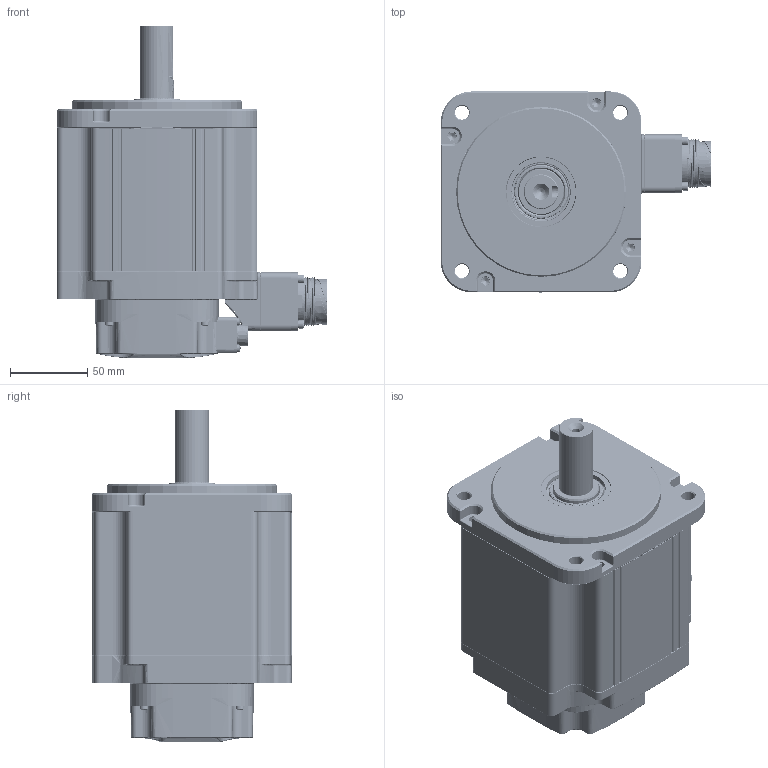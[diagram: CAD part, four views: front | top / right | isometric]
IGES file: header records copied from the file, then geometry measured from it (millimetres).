
Start section: SolidWorks IGES file using analytic representation for surfaces
Global section: file name: Z:\Products\Servo\08.2024\UNITRONICS\B6 MOTORS\UMM-0018CA&EA-B6.IGS; native system: SolidWorks 2022; preprocessor: SolidWorks 2022; author: OfirZ; date: 240821.122545; units: millimetre
Bounding box: 175.2 x 130 x 215 mm (x, y, z)
Surface area: 321775.9 mm2 (no closed solid volume)
Topology: 0 solids, 0 shells, 4792 faces, 52065 edges, 51857 vertices
Faces by surface type: bspline 3024, revolution 1768
